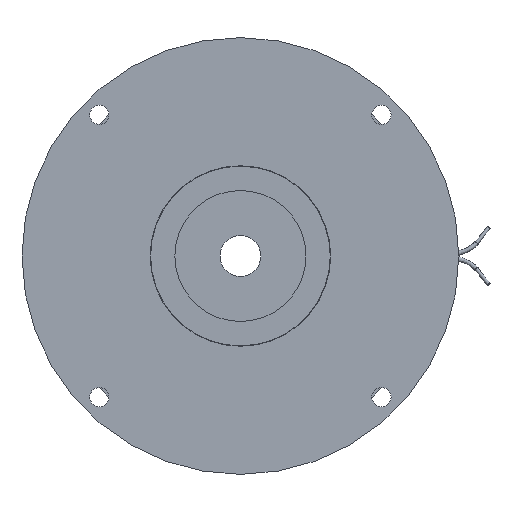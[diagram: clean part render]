
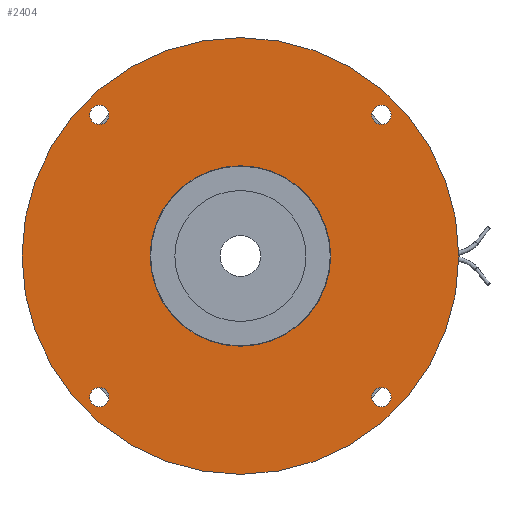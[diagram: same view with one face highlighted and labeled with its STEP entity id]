
A CAD part, left-side view. The second image highlights one B-rep face of the part: STEP entity #2404.
In plain terms, the highlighted planar face has unit normal (-1, 0, 0).
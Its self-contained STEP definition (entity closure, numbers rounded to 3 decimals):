
#102=FACE_BOUND('',#619,.T.);
#103=FACE_BOUND('',#620,.T.);
#104=FACE_BOUND('',#621,.T.);
#105=FACE_BOUND('',#622,.T.);
#106=FACE_BOUND('',#623,.T.);
#353=PLANE('',#2625);
#418=FACE_OUTER_BOUND('',#618,.T.);
#618=EDGE_LOOP('',(#1653));
#619=EDGE_LOOP('',(#1654));
#620=EDGE_LOOP('',(#1655));
#621=EDGE_LOOP('',(#1656));
#622=EDGE_LOOP('',(#1657));
#623=EDGE_LOOP('',(#1658));
#862=CIRCLE('',#2590,3.3);
#864=CIRCLE('',#2593,3.3);
#866=CIRCLE('',#2596,3.3);
#868=CIRCLE('',#2599,3.3);
#871=CIRCLE('',#2603,75.);
#881=CIRCLE('',#2624,31.);
#1069=VERTEX_POINT('',#4027);
#1071=VERTEX_POINT('',#4032);
#1073=VERTEX_POINT('',#4037);
#1075=VERTEX_POINT('',#4042);
#1078=VERTEX_POINT('',#4049);
#1088=VERTEX_POINT('',#4080);
#1285=EDGE_CURVE('',#1069,#1069,#862,.T.);
#1287=EDGE_CURVE('',#1071,#1071,#864,.T.);
#1289=EDGE_CURVE('',#1073,#1073,#866,.T.);
#1291=EDGE_CURVE('',#1075,#1075,#868,.T.);
#1294=EDGE_CURVE('',#1078,#1078,#871,.T.);
#1304=EDGE_CURVE('',#1088,#1088,#881,.T.);
#1653=ORIENTED_EDGE('',*,*,#1294,.F.);
#1654=ORIENTED_EDGE('',*,*,#1285,.T.);
#1655=ORIENTED_EDGE('',*,*,#1287,.T.);
#1656=ORIENTED_EDGE('',*,*,#1289,.T.);
#1657=ORIENTED_EDGE('',*,*,#1291,.T.);
#1658=ORIENTED_EDGE('',*,*,#1304,.T.);
#2404=ADVANCED_FACE('',(#418,#102,#103,#104,#105,#106),#353,.T.);
#2590=AXIS2_PLACEMENT_3D('',#4028,#3019,#3020);
#2593=AXIS2_PLACEMENT_3D('',#4033,#3025,#3026);
#2596=AXIS2_PLACEMENT_3D('',#4038,#3031,#3032);
#2599=AXIS2_PLACEMENT_3D('',#4043,#3037,#3038);
#2603=AXIS2_PLACEMENT_3D('',#4050,#3045,#3046);
#2624=AXIS2_PLACEMENT_3D('',#4081,#3087,#3088);
#2625=AXIS2_PLACEMENT_3D('',#4082,#3089,#3090);
#3019=DIRECTION('center_axis',(1.,0.,0.));
#3020=DIRECTION('ref_axis',(0.,0.,-1.));
#3025=DIRECTION('center_axis',(1.,0.,0.));
#3026=DIRECTION('ref_axis',(0.,0.,-1.));
#3031=DIRECTION('center_axis',(1.,0.,0.));
#3032=DIRECTION('ref_axis',(0.,0.,-1.));
#3037=DIRECTION('center_axis',(1.,0.,0.));
#3038=DIRECTION('ref_axis',(0.,0.,-1.));
#3045=DIRECTION('center_axis',(1.,0.,0.));
#3046=DIRECTION('ref_axis',(0.,0.,-1.));
#3087=DIRECTION('center_axis',(1.,0.,0.));
#3088=DIRECTION('ref_axis',(0.,0.,-1.));
#3089=DIRECTION('center_axis',(-1.,0.,0.));
#3090=DIRECTION('ref_axis',(0.,0.,1.));
#4027=CARTESIAN_POINT('',(-12.,-48.437,-45.137));
#4028=CARTESIAN_POINT('Origin',(-12.,-48.437,-48.437));
#4032=CARTESIAN_POINT('',(-12.,48.437,51.737));
#4033=CARTESIAN_POINT('Origin',(-12.,48.437,48.437));
#4037=CARTESIAN_POINT('',(-12.,-48.437,51.737));
#4038=CARTESIAN_POINT('Origin',(-12.,-48.437,48.437));
#4042=CARTESIAN_POINT('',(-12.,48.437,-45.137));
#4043=CARTESIAN_POINT('Origin',(-12.,48.437,-48.437));
#4049=CARTESIAN_POINT('',(-12.,75.,0.));
#4050=CARTESIAN_POINT('Origin',(-12.,0.,0.));
#4080=CARTESIAN_POINT('',(-12.,31.,0.));
#4081=CARTESIAN_POINT('Origin',(-12.,0.,0.));
#4082=CARTESIAN_POINT('Origin',(-12.,75.,0.));
